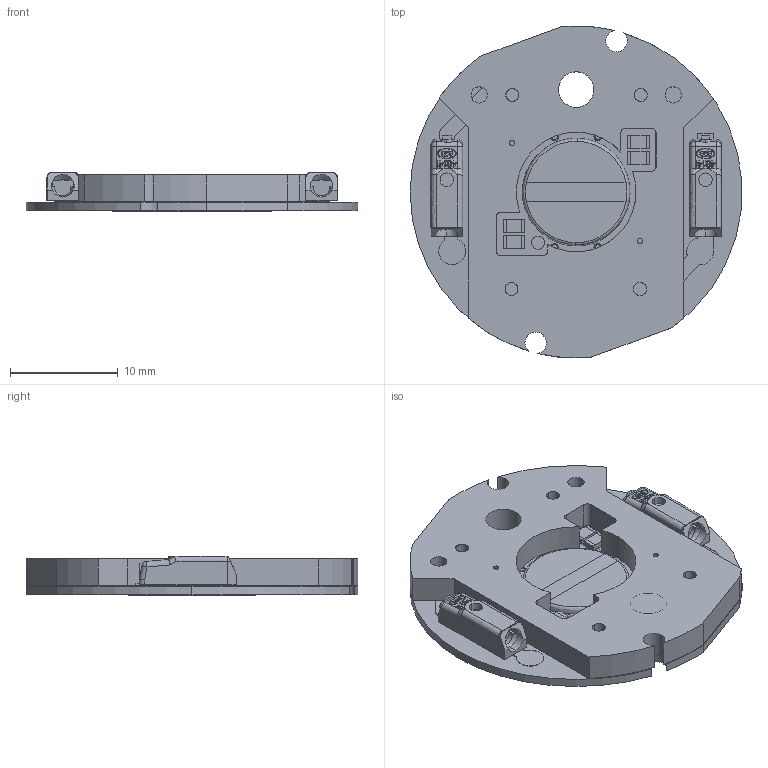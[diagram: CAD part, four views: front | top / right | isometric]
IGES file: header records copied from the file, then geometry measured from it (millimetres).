
Start section: SolidWorks IGES file using analytic representation for surfaces
Global section: file name: C:\Users\jiaqichen\Desktop\DW TW Holder-CoB\New folder\DW 9 Holder-CoB Assembly.IGS; native system: SolidWorks 2020; preprocessor: SolidWorks 2020; author: jiaqichen; date: 200814.174258; units: millimetre
Bounding box: 30.77 x 30.8 x 3.66 mm (x, y, z)
Surface area: 3311 mm2 (no closed solid volume)
Topology: 0 solids, 10 shells, 908 faces, 2419 edges, 1578 vertices
Faces by surface type: plane 572, revolution 306, bspline 30
